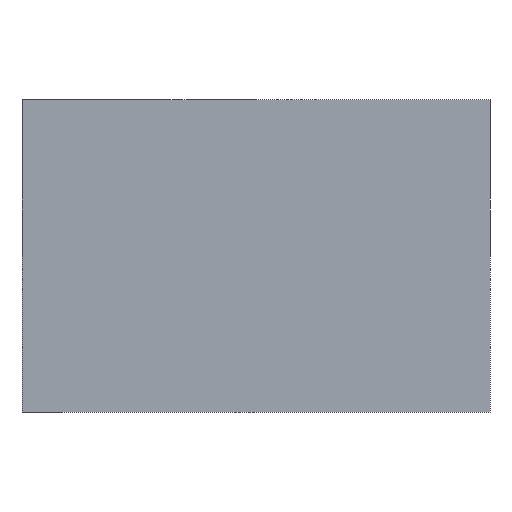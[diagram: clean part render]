
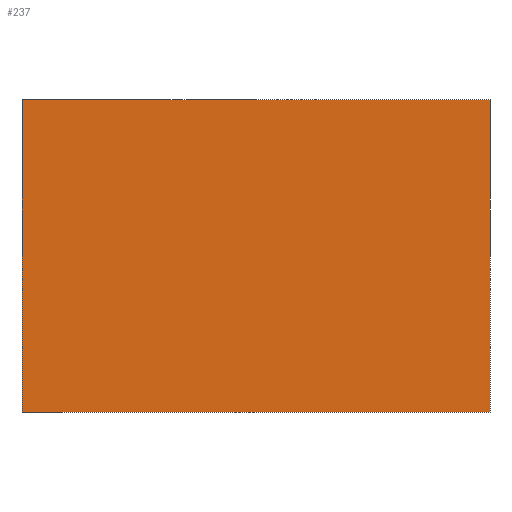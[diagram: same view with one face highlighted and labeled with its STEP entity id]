
A CAD part, front view. The second image highlights one B-rep face of the part: STEP entity #237.
In plain terms, the highlighted planar face has unit normal (0, -1, 0).
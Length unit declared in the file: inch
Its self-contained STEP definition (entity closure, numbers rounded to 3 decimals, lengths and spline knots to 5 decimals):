
#181=CARTESIAN_POINT('',(1.5,0.0,1.0));
#182=VERTEX_POINT('',#181);
#189=CARTESIAN_POINT('',(1.5,0.0,0.0));
#190=VERTEX_POINT('',#189);
#191=CARTESIAN_POINT('',(1.5,0.0,0.0));
#192=DIRECTION('',(0.0,0.0,1.0));
#193=VECTOR('',#192,1.0);
#194=LINE('',#191,#193);
#195=EDGE_CURVE('',#190,#182,#194,.T.);
#207=CARTESIAN_POINT('',(1.5,0.0,0.0));
#208=DIRECTION('',(0.0,-1.0,0.0));
#209=DIRECTION('',(0.0,0.0,-1.0));
#210=AXIS2_PLACEMENT_3D('',#207,#208,#209);
#211=PLANE('',#210);
#212=CARTESIAN_POINT('',(0.0,0.0,1.0));
#213=VERTEX_POINT('',#212);
#214=CARTESIAN_POINT('',(1.5,0.0,1.0));
#215=DIRECTION('',(-1.0,0.0,0.0));
#216=VECTOR('',#215,1.5);
#217=LINE('',#214,#216);
#218=EDGE_CURVE('',#182,#213,#217,.T.);
#219=ORIENTED_EDGE('',*,*,#218,.T.);
#220=CARTESIAN_POINT('',(0.0,0.0,0.0));
#221=VERTEX_POINT('',#220);
#222=CARTESIAN_POINT('',(0.0,0.0,0.0));
#223=DIRECTION('',(0.0,0.0,1.0));
#224=VECTOR('',#223,1.0);
#225=LINE('',#222,#224);
#226=EDGE_CURVE('',#221,#213,#225,.T.);
#227=ORIENTED_EDGE('',*,*,#226,.F.);
#228=CARTESIAN_POINT('',(1.5,0.0,0.0));
#229=DIRECTION('',(-1.0,0.0,0.0));
#230=VECTOR('',#229,1.5);
#231=LINE('',#228,#230);
#232=EDGE_CURVE('',#190,#221,#231,.T.);
#233=ORIENTED_EDGE('',*,*,#232,.F.);
#234=ORIENTED_EDGE('',*,*,#195,.T.);
#235=EDGE_LOOP('',(#219,#227,#233,#234));
#236=FACE_OUTER_BOUND('',#235,.T.);
#237=ADVANCED_FACE('',(#236),#211,.T.);
